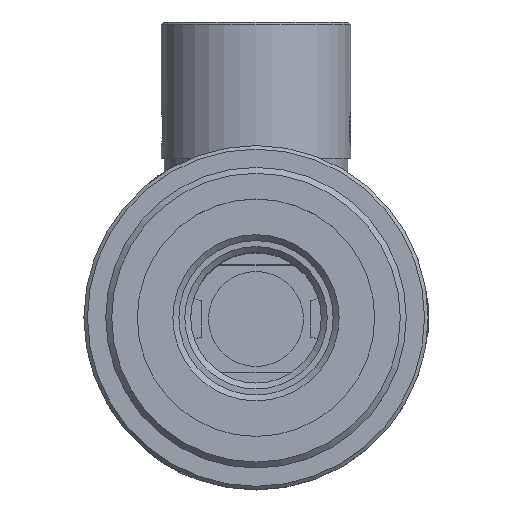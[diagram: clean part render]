
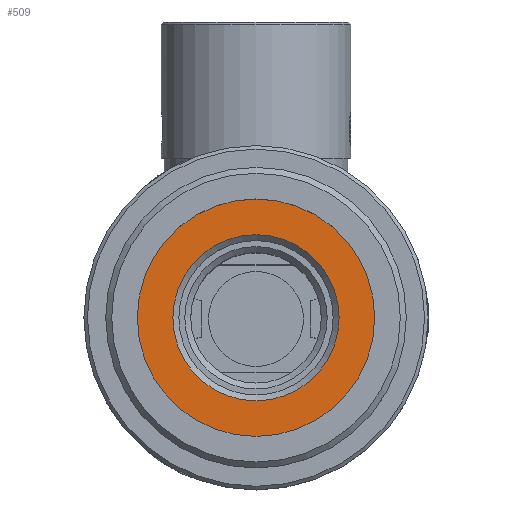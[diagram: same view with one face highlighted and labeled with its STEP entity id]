
A CAD part, top view. The second image highlights one B-rep face of the part: STEP entity #509.
In plain terms, the highlighted planar face has unit normal (0, 0, 1).
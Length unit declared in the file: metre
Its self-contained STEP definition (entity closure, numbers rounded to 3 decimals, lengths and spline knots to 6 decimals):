
#509=ADVANCED_FACE('NONE',(#1357,#1358),#1359,.F.);
#1357=FACE_BOUND('',#2631,.T.);
#1358=FACE_OUTER_BOUND('',#2632,.T.);
#1359=PLANE('',#2633);
#2631=EDGE_LOOP('',(#4173));
#2632=EDGE_LOOP('',(#4174));
#2633=AXIS2_PLACEMENT_3D('',#4175,#4176,#4177);
#4173=ORIENTED_EDGE('',*,*,#6719,.T.);
#4174=ORIENTED_EDGE('',*,*,#6720,.F.);
#4175=CARTESIAN_POINT('',(-0.013422,-0.001395,0.02407));
#4176=DIRECTION('',(0.,0.0,-1.0));
#4177=DIRECTION('',(-1.0,0.0,0.));
#6719=EDGE_CURVE('NONE',#7857,#7857,#7858,.T.);
#6720=EDGE_CURVE('NONE',#7859,#7859,#7860,.T.);
#7857=VERTEX_POINT('',#9614);
#7858=CIRCLE('',#9615,0.007);
#7859=VERTEX_POINT('',#9616);
#7860=CIRCLE('',#9617,0.01);
#9614=CARTESIAN_POINT('',(-0.003422,-0.008395,0.02407));
#9615=AXIS2_PLACEMENT_3D('',#11941,#11942,#11943);
#9616=CARTESIAN_POINT('',(-0.003422,-0.011395,0.02407));
#9617=AXIS2_PLACEMENT_3D('',#11944,#11945,#11946);
#11941=CARTESIAN_POINT('',(-0.003422,-0.001395,0.02407));
#11942=DIRECTION('',(0.,0.0,-1.0));
#11943=DIRECTION('',(0.,-1.0,0.));
#11944=CARTESIAN_POINT('',(-0.003422,-0.001395,0.02407));
#11945=DIRECTION('',(0.,0.,-1.0));
#11946=DIRECTION('',(0.,-1.0,0.));
